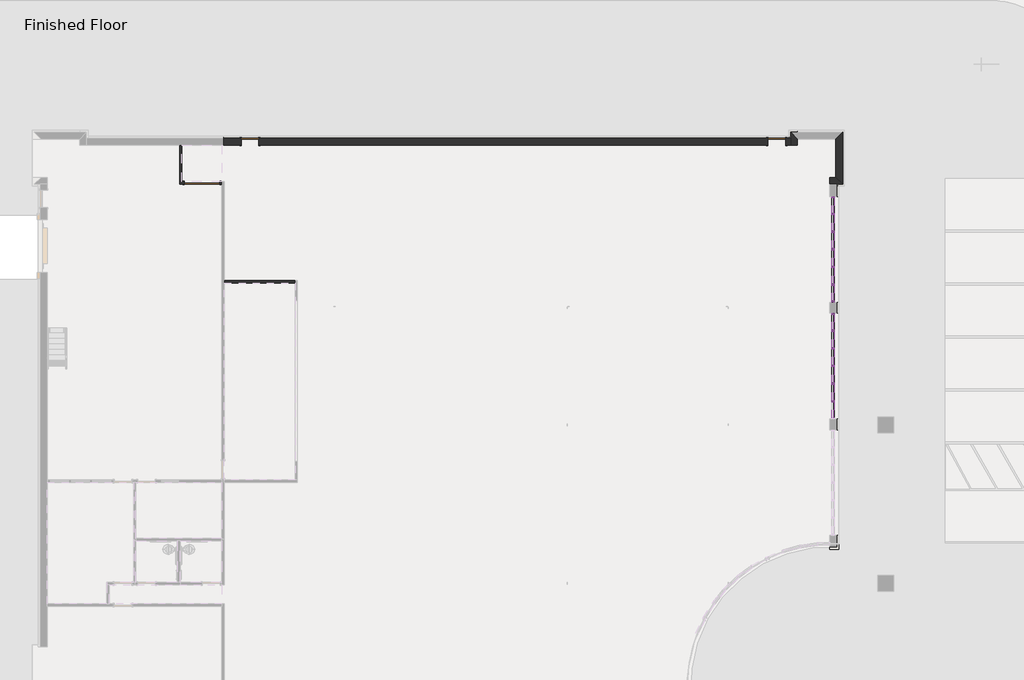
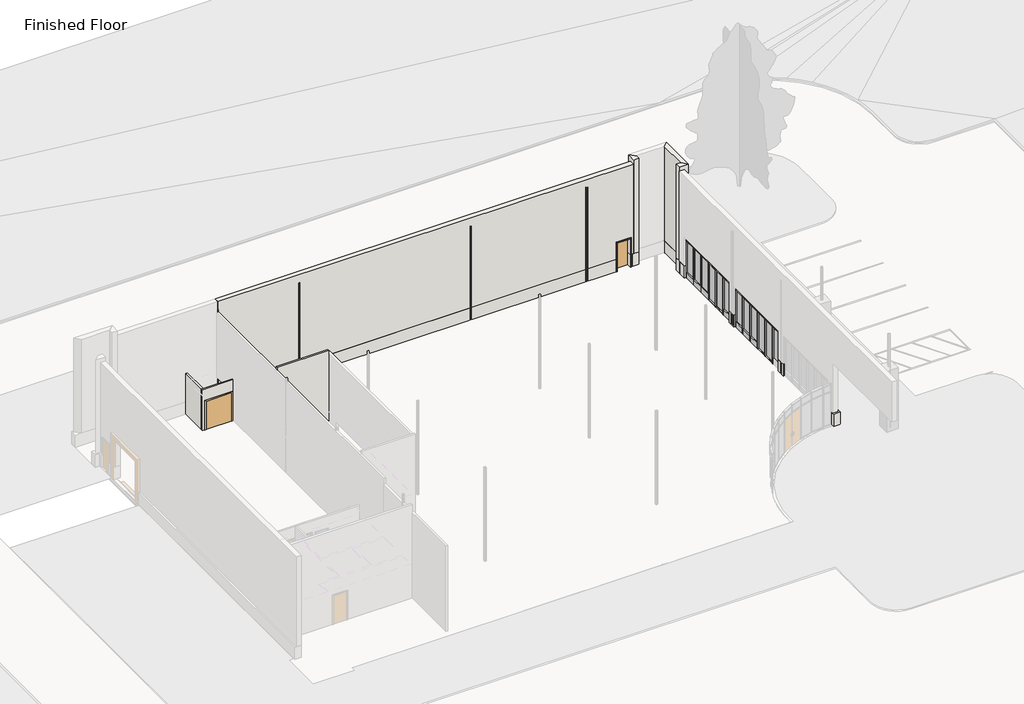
# One storey, part 5 of 7: 61 members, 24 plates, 12 walls, 3 doors.
"""IFC4 building model written with IfcOpenShell, lengths in millimetres."""

from ifc_helpers import new_model, si_unit, frame, origin, origin_with_axes, place, context, project, spatial, polyline, outline, extrude, faceted_brep, transform, mapped, element, save
from components import door_ca526e64, door_632be17d, door_cc5399a4, member_d2e7e466, member_7db1855a, member_069002c8, member_a75f139a, member_8a16213d, member_a608d019, member_c17f1be2, member_ad567e07, rectangular_mullion_tall_mullion_dc5872ae, rectangular_mullion_tall_mullion_643de06f, system_panel_glazed_a343adf7, system_panel_glazed_9a2244e3, system_panel_glazed_6d8c8de5, system_panel_glazed_f449fc8c, system_panel_glazed_de0f3d3d

model = new_model("IFC4")

# Units and contexts
model_context = context("Model", 3, world=origin())
ifc_project = project(units=[si_unit("LENGTHUNIT", "METRE", prefix="MILLI")], contexts=[model_context])

# Site, building, storey
site = spatial("IfcSite", under=ifc_project)
building = spatial("IfcBuilding", under=site)
storey = spatial("IfcBuildingStorey", under=building, Name="Finished Floor", Elevation=0.0)

# Doors
placement = place(None, origin())
door_shape = door_ca526e64(model_context)
element("IfcDoor", 1, ObjectType="Double-Flush-Dbl Acting : 72\" x 84\"", at=placement, inside=storey, context=model_context, shape_type="MappedRepresentation", body=[
    mapped(door_shape, transform((-14044.6165221, 12023.3561943, 0.0), x_axis=(-1.0, 0.0, 0.0), y_axis=(0.0, -1.0, 0.0), z_axis=(0.0, 0.0, 1.0))),
])
door_2_shape = door_632be17d(model_context)
element("IfcDoor", 2, ObjectType="Single-Flush : 36\" x 84\"", at=placement, inside=storey, context=model_context, shape_type="MappedRepresentation", body=[
    mapped(door_2_shape, transform((15731.3272279, 14169.6561943, 0.0), x_axis=(1.0, 0.0, 0.0), y_axis=(0.0, 1.0, 0.0), z_axis=(0.0, 0.0, 1.0))),
])
door_3_shape = door_cc5399a4(model_context)
element("IfcDoor", 3, ObjectType="Single-Flush : 36\" x 84\"", at=placement, inside=storey, context=model_context, shape_type="MappedRepresentation", body=[
    mapped(door_3_shape, transform((-11548.2727721, 14169.6561943, 0.0), x_axis=(-1.0, 0.0, 0.0), y_axis=(0.0, -1.0, 0.0), z_axis=(0.0, 0.0, 1.0))),
])

# Members
member_shape = member_d2e7e466(model_context)
element("IfcMember", 4, ObjectType="Rectangular Mullion : 2.5\" x 5\" rectangular", at=placement, inside=storey, context=model_context, shape_type="MappedRepresentation", body=[
    mapped(member_shape, transform((18653.9147279, 2501.5311943, 3048.0), x_axis=(0.0, 0.0, 1.0), y_axis=(1.0, 0.0, 0.0), z_axis=(0.0, 1.0, 0.0))),
])
element("IfcMember", 5, ObjectType="Rectangular Mullion : 2.5\" x 5\" rectangular", at=placement, inside=storey, context=model_context, shape_type="MappedRepresentation", body=[
    mapped(member_shape, transform((18653.9147279, 3415.9311943, 3048.0), x_axis=(0.0, 0.0, 1.0), y_axis=(1.0, 0.0, 0.0), z_axis=(0.0, 1.0, 0.0))),
])
element("IfcMember", 6, ObjectType="Rectangular Mullion : 2.5\" x 5\" rectangular", at=placement, inside=storey, context=model_context, shape_type="MappedRepresentation", body=[
    mapped(member_shape, transform((18653.9147279, 4330.3311943, 3048.0), x_axis=(0.0, 0.0, 1.0), y_axis=(1.0, 0.0, 0.0), z_axis=(0.0, 1.0, 0.0))),
])
element("IfcMember", 7, ObjectType="Rectangular Mullion : 2.5\" x 5\" rectangular", at=placement, inside=storey, context=model_context, shape_type="MappedRepresentation", body=[
    mapped(member_shape, transform((18653.9147279, 8546.7311943, 3048.0), x_axis=(0.0, 0.0, 1.0), y_axis=(1.0, 0.0, 0.0), z_axis=(0.0, 1.0, 0.0))),
])
element("IfcMember", 8, ObjectType="Rectangular Mullion : 2.5\" x 5\" rectangular", at=placement, inside=storey, context=model_context, shape_type="MappedRepresentation", body=[
    mapped(member_shape, transform((18653.9147279, 9461.1311943, 3048.0), x_axis=(0.0, 0.0, 1.0), y_axis=(1.0, 0.0, 0.0), z_axis=(0.0, 1.0, 0.0))),
])
element("IfcMember", 9, ObjectType="Rectangular Mullion : 2.5\" x 5\" rectangular", at=placement, inside=storey, context=model_context, shape_type="MappedRepresentation", body=[
    mapped(member_shape, transform((18653.9147279, 10375.5311943, 3048.0), x_axis=(0.0, 0.0, 1.0), y_axis=(1.0, 0.0, 0.0), z_axis=(0.0, 1.0, 0.0))),
])
member_2_shape = member_7db1855a(model_context)
element("IfcMember", 10, ObjectType="Rectangular Mullion : 2.5\" x 5\" rectangular", at=placement, inside=storey, context=model_context, shape_type="MappedRepresentation", body=[
    mapped(member_2_shape, transform((18653.9147279, 3415.9311943, 2813.05), x_axis=(0.0, 0.0, 1.0), y_axis=(1.0, 0.0, 0.0), z_axis=(0.0, 1.0, 0.0))),
])
element("IfcMember", 11, ObjectType="Rectangular Mullion : 2.5\" x 5\" rectangular", at=placement, inside=storey, context=model_context, shape_type="MappedRepresentation", body=[
    mapped(member_2_shape, transform((18653.9147279, 4330.3311943, 2813.05), x_axis=(0.0, 0.0, 1.0), y_axis=(1.0, 0.0, 0.0), z_axis=(0.0, 1.0, 0.0))),
])
element("IfcMember", 12, ObjectType="Rectangular Mullion : 2.5\" x 5\" rectangular", at=placement, inside=storey, context=model_context, shape_type="MappedRepresentation", body=[
    mapped(member_2_shape, transform((18653.9147279, 9461.1311943, 2813.05), x_axis=(0.0, 0.0, 1.0), y_axis=(1.0, 0.0, 0.0), z_axis=(0.0, 1.0, 0.0))),
])
element("IfcMember", 13, ObjectType="Rectangular Mullion : 2.5\" x 5\" rectangular", at=placement, inside=storey, context=model_context, shape_type="MappedRepresentation", body=[
    mapped(member_2_shape, transform((18653.9147279, 10375.5311943, 2813.05), x_axis=(0.0, 0.0, 1.0), y_axis=(1.0, 0.0, 0.0), z_axis=(0.0, 1.0, 0.0))),
])
element("IfcMember", 14, ObjectType="Rectangular Mullion : 2.5\" x 5\" rectangular", at=placement, inside=storey, context=model_context, shape_type="MappedRepresentation", body=[
    mapped(member_shape, transform((18653.9147279, 1587.1311943, 3048.0), x_axis=(0.0, 0.0, 1.0), y_axis=(1.0, 0.0, 0.0), z_axis=(0.0, 1.0, 0.0))),
])
element("IfcMember", 15, ObjectType="Rectangular Mullion : 2.5\" x 5\" rectangular", at=placement, inside=storey, context=model_context, shape_type="MappedRepresentation", body=[
    mapped(member_shape, transform((18653.9147279, 7632.3311943, 3048.0), x_axis=(0.0, 0.0, 1.0), y_axis=(1.0, 0.0, 0.0), z_axis=(0.0, 1.0, 0.0))),
])
element("IfcMember", 16, ObjectType="Rectangular Mullion : 2.5\" x 5\" rectangular", at=placement, inside=storey, context=model_context, shape_type="MappedRepresentation", body=[
    mapped(member_shape, transform((18653.9147279, 736.2311943, 0.0), x_axis=(0.0, 0.0, -1.0), y_axis=(1.0, 0.0, 0.0), z_axis=(0.0, -1.0, 0.0))),
])
element("IfcMember", 17, ObjectType="Rectangular Mullion : 2.5\" x 5\" rectangular", at=placement, inside=storey, context=model_context, shape_type="MappedRepresentation", body=[
    mapped(member_shape, transform((18653.9147279, 1650.6311943, 0.0), x_axis=(0.0, 0.0, -1.0), y_axis=(1.0, 0.0, 0.0), z_axis=(0.0, -1.0, 0.0))),
])
element("IfcMember", 18, ObjectType="Rectangular Mullion : 2.5\" x 5\" rectangular", at=placement, inside=storey, context=model_context, shape_type="MappedRepresentation", body=[
    mapped(member_shape, transform((18653.9147279, 6781.4311943, 0.0), x_axis=(0.0, 0.0, -1.0), y_axis=(1.0, 0.0, 0.0), z_axis=(0.0, -1.0, 0.0))),
])
element("IfcMember", 19, ObjectType="Rectangular Mullion : 2.5\" x 5\" rectangular", at=placement, inside=storey, context=model_context, shape_type="MappedRepresentation", body=[
    mapped(member_shape, transform((18653.9147279, 7695.8311943, 0.0), x_axis=(0.0, 0.0, -1.0), y_axis=(1.0, 0.0, 0.0), z_axis=(0.0, -1.0, 0.0))),
])
element("IfcMember", 20, ObjectType="Rectangular Mullion : 2.5\" x 5\" rectangular", at=placement, inside=storey, context=model_context, shape_type="MappedRepresentation", body=[
    mapped(member_2_shape, transform((18653.9147279, 1587.1311943, 2813.05), x_axis=(0.0, 0.0, 1.0), y_axis=(1.0, 0.0, 0.0), z_axis=(0.0, 1.0, 0.0))),
])
element("IfcMember", 21, ObjectType="Rectangular Mullion : 2.5\" x 5\" rectangular", at=placement, inside=storey, context=model_context, shape_type="MappedRepresentation", body=[
    mapped(member_2_shape, transform((18653.9147279, 2501.5311943, 2813.05), x_axis=(0.0, 0.0, 1.0), y_axis=(1.0, 0.0, 0.0), z_axis=(0.0, 1.0, 0.0))),
])
element("IfcMember", 22, ObjectType="Rectangular Mullion : 2.5\" x 5\" rectangular", at=placement, inside=storey, context=model_context, shape_type="MappedRepresentation", body=[
    mapped(member_2_shape, transform((18653.9147279, 7632.3311943, 2813.05), x_axis=(0.0, 0.0, 1.0), y_axis=(1.0, 0.0, 0.0), z_axis=(0.0, 1.0, 0.0))),
])
element("IfcMember", 23, ObjectType="Rectangular Mullion : 2.5\" x 5\" rectangular", at=placement, inside=storey, context=model_context, shape_type="MappedRepresentation", body=[
    mapped(member_2_shape, transform((18653.9147279, 8546.7311943, 2813.05), x_axis=(0.0, 0.0, 1.0), y_axis=(1.0, 0.0, 0.0), z_axis=(0.0, 1.0, 0.0))),
])
member_3_shape = member_069002c8(model_context)
element("IfcMember", 24, ObjectType="Rectangular Mullion : 2.5\" x 5\" rectangular", at=placement, inside=storey, context=model_context, shape_type="MappedRepresentation", body=[
    mapped(member_3_shape, transform((18653.9147279, 2533.2811943, 0.0), x_axis=(0.0, 1.0, 0.0), y_axis=(1.0, 0.0, 0.0), z_axis=(0.0, 0.0, -1.0))),
])
element("IfcMember", 25, ObjectType="Rectangular Mullion : 2.5\" x 5\" rectangular", at=placement, inside=storey, context=model_context, shape_type="MappedRepresentation", body=[
    mapped(member_3_shape, transform((18653.9147279, 3447.6811943, 0.0), x_axis=(0.0, 1.0, 0.0), y_axis=(1.0, 0.0, 0.0), z_axis=(0.0, 0.0, -1.0))),
])
element("IfcMember", 26, ObjectType="Rectangular Mullion : 2.5\" x 5\" rectangular", at=placement, inside=storey, context=model_context, shape_type="MappedRepresentation", body=[
    mapped(member_3_shape, transform((18653.9147279, 4362.0811943, 0.0), x_axis=(0.0, 1.0, 0.0), y_axis=(1.0, 0.0, 0.0), z_axis=(0.0, 0.0, -1.0))),
])
element("IfcMember", 27, ObjectType="Rectangular Mullion : 2.5\" x 5\" rectangular", at=placement, inside=storey, context=model_context, shape_type="MappedRepresentation", body=[
    mapped(member_3_shape, transform((18653.9147279, 8578.4811943, 0.0), x_axis=(0.0, 1.0, 0.0), y_axis=(1.0, 0.0, 0.0), z_axis=(0.0, 0.0, -1.0))),
])
element("IfcMember", 28, ObjectType="Rectangular Mullion : 2.5\" x 5\" rectangular", at=placement, inside=storey, context=model_context, shape_type="MappedRepresentation", body=[
    mapped(member_3_shape, transform((18653.9147279, 9492.8811943, 0.0), x_axis=(0.0, 1.0, 0.0), y_axis=(1.0, 0.0, 0.0), z_axis=(0.0, 0.0, -1.0))),
])
element("IfcMember", 29, ObjectType="Rectangular Mullion : 2.5\" x 5\" rectangular", at=placement, inside=storey, context=model_context, shape_type="MappedRepresentation", body=[
    mapped(member_3_shape, transform((18653.9147279, 10407.2811943, 0.0), x_axis=(0.0, 1.0, 0.0), y_axis=(1.0, 0.0, 0.0), z_axis=(0.0, 0.0, -1.0))),
])
member_4_shape = member_a75f139a(model_context)
element("IfcMember", 30, ObjectType="Rectangular Mullion : 2.5\" x 5\" rectangular", at=placement, inside=storey, context=model_context, shape_type="MappedRepresentation", body=[
    mapped(member_4_shape, transform((18653.9147279, 2533.2811943, 2813.05), x_axis=(0.0, 1.0, 0.0), y_axis=(1.0, 0.0, 0.0), z_axis=(0.0, 0.0, -1.0))),
])
element("IfcMember", 31, ObjectType="Rectangular Mullion : 2.5\" x 5\" rectangular", at=placement, inside=storey, context=model_context, shape_type="MappedRepresentation", body=[
    mapped(member_4_shape, transform((18653.9147279, 3447.6811943, 2813.05), x_axis=(0.0, 1.0, 0.0), y_axis=(1.0, 0.0, 0.0), z_axis=(0.0, 0.0, -1.0))),
])
element("IfcMember", 32, ObjectType="Rectangular Mullion : 2.5\" x 5\" rectangular", at=placement, inside=storey, context=model_context, shape_type="MappedRepresentation", body=[
    mapped(member_4_shape, transform((18653.9147279, 4362.0811943, 2813.05), x_axis=(0.0, 1.0, 0.0), y_axis=(1.0, 0.0, 0.0), z_axis=(0.0, 0.0, -1.0))),
])
element("IfcMember", 33, ObjectType="Rectangular Mullion : 2.5\" x 5\" rectangular", at=placement, inside=storey, context=model_context, shape_type="MappedRepresentation", body=[
    mapped(member_4_shape, transform((18653.9147279, 8578.4811943, 2813.05), x_axis=(0.0, 1.0, 0.0), y_axis=(1.0, 0.0, 0.0), z_axis=(0.0, 0.0, -1.0))),
])
element("IfcMember", 34, ObjectType="Rectangular Mullion : 2.5\" x 5\" rectangular", at=placement, inside=storey, context=model_context, shape_type="MappedRepresentation", body=[
    mapped(member_4_shape, transform((18653.9147279, 9492.8811943, 2813.05), x_axis=(0.0, 1.0, 0.0), y_axis=(1.0, 0.0, 0.0), z_axis=(0.0, 0.0, -1.0))),
])
element("IfcMember", 35, ObjectType="Rectangular Mullion : 2.5\" x 5\" rectangular", at=placement, inside=storey, context=model_context, shape_type="MappedRepresentation", body=[
    mapped(member_4_shape, transform((18653.9147279, 10407.2811943, 2813.05), x_axis=(0.0, 1.0, 0.0), y_axis=(1.0, 0.0, 0.0), z_axis=(0.0, 0.0, -1.0))),
])
element("IfcMember", 36, ObjectType="Rectangular Mullion : 2.5\" x 5\" rectangular", at=placement, inside=storey, context=model_context, shape_type="MappedRepresentation", body=[
    mapped(member_3_shape, transform((18653.9147279, 1618.8811943, 0.0), x_axis=(0.0, 1.0, 0.0), y_axis=(1.0, 0.0, 0.0), z_axis=(0.0, 0.0, -1.0))),
])
element("IfcMember", 37, ObjectType="Rectangular Mullion : 2.5\" x 5\" rectangular", at=placement, inside=storey, context=model_context, shape_type="MappedRepresentation", body=[
    mapped(member_3_shape, transform((18653.9147279, 704.4811943, 0.0), x_axis=(0.0, 1.0, 0.0), y_axis=(1.0, 0.0, 0.0), z_axis=(0.0, 0.0, -1.0))),
])
element("IfcMember", 38, ObjectType="Rectangular Mullion : 2.5\" x 5\" rectangular", at=placement, inside=storey, context=model_context, shape_type="MappedRepresentation", body=[
    mapped(member_3_shape, transform((18653.9147279, 7664.0811943, 0.0), x_axis=(0.0, 1.0, 0.0), y_axis=(1.0, 0.0, 0.0), z_axis=(0.0, 0.0, -1.0))),
])
element("IfcMember", 39, ObjectType="Rectangular Mullion : 2.5\" x 5\" rectangular", at=placement, inside=storey, context=model_context, shape_type="MappedRepresentation", body=[
    mapped(member_3_shape, transform((18653.9147279, 6749.6811943, 0.0), x_axis=(0.0, 1.0, 0.0), y_axis=(1.0, 0.0, 0.0), z_axis=(0.0, 0.0, -1.0))),
])
element("IfcMember", 40, ObjectType="Rectangular Mullion : 2.5\" x 5\" rectangular", at=placement, inside=storey, context=model_context, shape_type="MappedRepresentation", body=[
    mapped(member_4_shape, transform((18653.9147279, 1618.8811943, 2813.05), x_axis=(0.0, 1.0, 0.0), y_axis=(1.0, 0.0, 0.0), z_axis=(0.0, 0.0, -1.0))),
])
element("IfcMember", 41, ObjectType="Rectangular Mullion : 2.5\" x 5\" rectangular", at=placement, inside=storey, context=model_context, shape_type="MappedRepresentation", body=[
    mapped(member_4_shape, transform((18653.9147279, 704.4811943, 2813.05), x_axis=(0.0, 1.0, 0.0), y_axis=(1.0, 0.0, 0.0), z_axis=(0.0, 0.0, -1.0))),
])
element("IfcMember", 42, ObjectType="Rectangular Mullion : 2.5\" x 5\" rectangular", at=placement, inside=storey, context=model_context, shape_type="MappedRepresentation", body=[
    mapped(member_4_shape, transform((18653.9147279, 7664.0811943, 2813.05), x_axis=(0.0, 1.0, 0.0), y_axis=(1.0, 0.0, 0.0), z_axis=(0.0, 0.0, -1.0))),
])
element("IfcMember", 43, ObjectType="Rectangular Mullion : 2.5\" x 5\" rectangular", at=placement, inside=storey, context=model_context, shape_type="MappedRepresentation", body=[
    mapped(member_4_shape, transform((18653.9147279, 6749.6811943, 2813.05), x_axis=(0.0, 1.0, 0.0), y_axis=(1.0, 0.0, 0.0), z_axis=(0.0, 0.0, -1.0))),
])
member_5_shape = member_8a16213d(model_context)
element("IfcMember", 44, ObjectType="Rectangular Mullion : 2.5\" x 5\" rectangular", at=placement, inside=storey, context=model_context, shape_type="MappedRepresentation", body=[
    mapped(member_5_shape, transform((18653.9147279, 5276.4811943, 0.0), x_axis=(0.0, 1.0, 0.0), y_axis=(1.0, 0.0, 0.0), z_axis=(0.0, 0.0, -1.0))),
])
element("IfcMember", 45, ObjectType="Rectangular Mullion : 2.5\" x 5\" rectangular", at=placement, inside=storey, context=model_context, shape_type="MappedRepresentation", body=[
    mapped(member_5_shape, transform((18653.9147279, 11321.6811943, 0.0), x_axis=(0.0, 1.0, 0.0), y_axis=(1.0, 0.0, 0.0), z_axis=(0.0, 0.0, -1.0))),
])
member_6_shape = member_a608d019(model_context)
element("IfcMember", 46, ObjectType="Rectangular Mullion : 2.5\" x 5\" rectangular", at=placement, inside=storey, context=model_context, shape_type="MappedRepresentation", body=[
    mapped(member_6_shape, transform((18653.9147279, 5276.4811943, 2813.05), x_axis=(0.0, 1.0, 0.0), y_axis=(1.0, 0.0, 0.0), z_axis=(0.0, 0.0, -1.0))),
])
element("IfcMember", 47, ObjectType="Rectangular Mullion : 2.5\" x 5\" rectangular", at=placement, inside=storey, context=model_context, shape_type="MappedRepresentation", body=[
    mapped(member_6_shape, transform((18653.9147279, 11321.6811943, 2813.05), x_axis=(0.0, 1.0, 0.0), y_axis=(1.0, 0.0, 0.0), z_axis=(0.0, 0.0, -1.0))),
])
element("IfcMember", 48, ObjectType="Rectangular Mullion : 2.5\" x 5\" rectangular", at=placement, inside=storey, context=model_context, shape_type="MappedRepresentation", body=[
    mapped(member_6_shape, transform((18653.9147279, 5835.2811943, 3048.0), x_axis=(0.0, -1.0, 0.0), y_axis=(1.0, 0.0, 0.0), z_axis=(0.0, 0.0, 1.0))),
])
element("IfcMember", 49, ObjectType="Rectangular Mullion : 2.5\" x 5\" rectangular", at=placement, inside=storey, context=model_context, shape_type="MappedRepresentation", body=[
    mapped(member_5_shape, transform((18653.9147279, 5835.2811943, 2813.05), x_axis=(0.0, -1.0, 0.0), y_axis=(1.0, 0.0, 0.0), z_axis=(0.0, 0.0, 1.0))),
])
member_7_shape = member_c17f1be2(model_context)
element("IfcMember", 50, ObjectType="Rectangular Mullion : 2.5\" x 5\" rectangular", at=placement, inside=storey, context=model_context, shape_type="MappedRepresentation", body=[
    mapped(member_7_shape, transform((18653.9147279, 5212.9811943, 3048.0), x_axis=(0.0, 0.0, 1.0), y_axis=(1.0, 0.0, 0.0), z_axis=(0.0, 1.0, 0.0))),
])
element("IfcMember", 51, ObjectType="Rectangular Mullion : 2.5\" x 5\" rectangular", at=placement, inside=storey, context=model_context, shape_type="MappedRepresentation", body=[
    mapped(member_7_shape, transform((18653.9147279, 11258.1811943, 3048.0), x_axis=(0.0, 0.0, 1.0), y_axis=(1.0, 0.0, 0.0), z_axis=(0.0, 1.0, 0.0))),
])
member_8_shape = member_ad567e07(model_context)
element("IfcMember", 52, ObjectType="Rectangular Mullion : 2.5\" x 5\" rectangular", at=placement, inside=storey, context=model_context, shape_type="MappedRepresentation", body=[
    mapped(member_8_shape, transform((18653.9147279, 672.7311943, 2813.05), x_axis=(0.0, 0.0, 1.0), y_axis=(1.0, 0.0, 0.0), z_axis=(0.0, 1.0, 0.0))),
])
element("IfcMember", 53, ObjectType="Rectangular Mullion : 2.5\" x 5\" rectangular", at=placement, inside=storey, context=model_context, shape_type="MappedRepresentation", body=[
    mapped(member_8_shape, transform((18653.9147279, 5212.9811943, 2813.05), x_axis=(0.0, 0.0, 1.0), y_axis=(1.0, 0.0, 0.0), z_axis=(0.0, 1.0, 0.0))),
])
element("IfcMember", 54, ObjectType="Rectangular Mullion : 2.5\" x 5\" rectangular", at=placement, inside=storey, context=model_context, shape_type="MappedRepresentation", body=[
    mapped(member_8_shape, transform((18653.9147279, 6717.9311943, 2813.05), x_axis=(0.0, 0.0, 1.0), y_axis=(1.0, 0.0, 0.0), z_axis=(0.0, 1.0, 0.0))),
])
element("IfcMember", 55, ObjectType="Rectangular Mullion : 2.5\" x 5\" rectangular", at=placement, inside=storey, context=model_context, shape_type="MappedRepresentation", body=[
    mapped(member_8_shape, transform((18653.9147279, 11258.1811943, 2813.05), x_axis=(0.0, 0.0, 1.0), y_axis=(1.0, 0.0, 0.0), z_axis=(0.0, 1.0, 0.0))),
])
element("IfcMember", 56, ObjectType="Rectangular Mullion : 2.5\" x 5\" rectangular", at=placement, inside=storey, context=model_context, shape_type="MappedRepresentation", body=[
    mapped(member_7_shape, transform((18653.9147279, 672.7311943, 3048.0), x_axis=(0.0, 0.0, 1.0), y_axis=(1.0, 0.0, 0.0), z_axis=(0.0, 1.0, 0.0))),
])
element("IfcMember", 57, ObjectType="Rectangular Mullion : 2.5\" x 5\" rectangular", at=placement, inside=storey, context=model_context, shape_type="MappedRepresentation", body=[
    mapped(member_7_shape, transform((18653.9147279, 6717.9311943, 3048.0), x_axis=(0.0, 0.0, 1.0), y_axis=(1.0, 0.0, 0.0), z_axis=(0.0, 1.0, 0.0))),
])
rectangular_mullion_tall_mullion_shape = rectangular_mullion_tall_mullion_dc5872ae(model_context)
element("IfcMember", 58, ObjectType="Rectangular Mullion : Tall Mullion", at=placement, inside=storey, context=model_context, shape_type="MappedRepresentation", body=[
    mapped(rectangular_mullion_tall_mullion_shape, transform((18653.9147279, 2565.0311943, 0.0), x_axis=(0.0, 0.0, -1.0), y_axis=(1.0, 0.0, 0.0), z_axis=(0.0, -1.0, 0.0))),
])
element("IfcMember", 59, ObjectType="Rectangular Mullion : Tall Mullion", at=placement, inside=storey, context=model_context, shape_type="MappedRepresentation", body=[
    mapped(rectangular_mullion_tall_mullion_shape, transform((18653.9147279, 3479.4311943, 0.0), x_axis=(0.0, 0.0, -1.0), y_axis=(1.0, 0.0, 0.0), z_axis=(0.0, -1.0, 0.0))),
])
element("IfcMember", 60, ObjectType="Rectangular Mullion : Tall Mullion", at=placement, inside=storey, context=model_context, shape_type="MappedRepresentation", body=[
    mapped(rectangular_mullion_tall_mullion_shape, transform((18653.9147279, 8610.2311943, 0.0), x_axis=(0.0, 0.0, -1.0), y_axis=(1.0, 0.0, 0.0), z_axis=(0.0, -1.0, 0.0))),
])
element("IfcMember", 61, ObjectType="Rectangular Mullion : Tall Mullion", at=placement, inside=storey, context=model_context, shape_type="MappedRepresentation", body=[
    mapped(rectangular_mullion_tall_mullion_shape, transform((18653.9147279, 9524.6311943, 0.0), x_axis=(0.0, 0.0, -1.0), y_axis=(1.0, 0.0, 0.0), z_axis=(0.0, -1.0, 0.0))),
])
rectangular_mullion_tall_mullion_2_shape = rectangular_mullion_tall_mullion_643de06f(model_context)
element("IfcMember", 62, ObjectType="Rectangular Mullion : Tall Mullion", at=placement, inside=storey, context=model_context, shape_type="MappedRepresentation", body=[
    mapped(rectangular_mullion_tall_mullion_2_shape, transform((18653.9147279, 4393.8311943, 0.0), x_axis=(0.0, 0.0, -1.0), y_axis=(1.0, 0.0, 0.0), z_axis=(0.0, -1.0, 0.0))),
])
element("IfcMember", 63, ObjectType="Rectangular Mullion : Tall Mullion", at=placement, inside=storey, context=model_context, shape_type="MappedRepresentation", body=[
    mapped(rectangular_mullion_tall_mullion_2_shape, transform((18653.9147279, 5898.7811943, 0.0), x_axis=(0.0, 0.0, -1.0), y_axis=(1.0, 0.0, 0.0), z_axis=(0.0, -1.0, 0.0))),
])
element("IfcMember", 64, ObjectType="Rectangular Mullion : Tall Mullion", at=placement, inside=storey, context=model_context, shape_type="MappedRepresentation", body=[
    mapped(rectangular_mullion_tall_mullion_2_shape, transform((18653.9147279, 10439.0311943, 0.0), x_axis=(0.0, 0.0, -1.0), y_axis=(1.0, 0.0, 0.0), z_axis=(0.0, -1.0, 0.0))),
])

# Plates
system_panel_glazed_shape = system_panel_glazed_a343adf7(model_context)
element("IfcPlate", 65, ObjectType="System Panel : Glazed", at=placement, inside=storey, context=model_context, shape_type="MappedRepresentation", body=[
    mapped(system_panel_glazed_shape, transform((18653.9147279, 2990.4811943, 406.4), x_axis=(0.0, 1.0, 0.0), y_axis=(-1.0, 0.0, 0.0), z_axis=(0.0, 0.0, 1.0))),
])
element("IfcPlate", 66, ObjectType="System Panel : Glazed", at=placement, inside=storey, context=model_context, shape_type="MappedRepresentation", body=[
    mapped(system_panel_glazed_shape, transform((18653.9147279, 3904.8811943, 406.4), x_axis=(0.0, 1.0, 0.0), y_axis=(-1.0, 0.0, 0.0), z_axis=(0.0, 0.0, 1.0))),
])
element("IfcPlate", 67, ObjectType="System Panel : Glazed", at=placement, inside=storey, context=model_context, shape_type="MappedRepresentation", body=[
    mapped(system_panel_glazed_shape, transform((18653.9147279, 9035.6811943, 406.4), x_axis=(0.0, 1.0, 0.0), y_axis=(-1.0, 0.0, 0.0), z_axis=(0.0, 0.0, 1.0))),
])
element("IfcPlate", 68, ObjectType="System Panel : Glazed", at=placement, inside=storey, context=model_context, shape_type="MappedRepresentation", body=[
    mapped(system_panel_glazed_shape, transform((18653.9147279, 9950.0811943, 406.4), x_axis=(0.0, 1.0, 0.0), y_axis=(-1.0, 0.0, 0.0), z_axis=(0.0, 0.0, 1.0))),
])
system_panel_glazed_2_shape = system_panel_glazed_9a2244e3(model_context)
element("IfcPlate", 69, ObjectType="System Panel : Glazed", at=placement, inside=storey, context=model_context, shape_type="MappedRepresentation", body=[
    mapped(system_panel_glazed_2_shape, transform((18653.9147279, 2990.4811943, 2844.8), x_axis=(0.0, 1.0, 0.0), y_axis=(-1.0, 0.0, 0.0), z_axis=(0.0, 0.0, 1.0))),
])
element("IfcPlate", 70, ObjectType="System Panel : Glazed", at=placement, inside=storey, context=model_context, shape_type="MappedRepresentation", body=[
    mapped(system_panel_glazed_2_shape, transform((18653.9147279, 3904.8811943, 2844.8), x_axis=(0.0, 1.0, 0.0), y_axis=(-1.0, 0.0, 0.0), z_axis=(0.0, 0.0, 1.0))),
])
element("IfcPlate", 71, ObjectType="System Panel : Glazed", at=placement, inside=storey, context=model_context, shape_type="MappedRepresentation", body=[
    mapped(system_panel_glazed_2_shape, transform((18653.9147279, 9035.6811943, 2844.8), x_axis=(0.0, 1.0, 0.0), y_axis=(-1.0, 0.0, 0.0), z_axis=(0.0, 0.0, 1.0))),
])
element("IfcPlate", 72, ObjectType="System Panel : Glazed", at=placement, inside=storey, context=model_context, shape_type="MappedRepresentation", body=[
    mapped(system_panel_glazed_2_shape, transform((18653.9147279, 9950.0811943, 2844.8), x_axis=(0.0, 1.0, 0.0), y_axis=(-1.0, 0.0, 0.0), z_axis=(0.0, 0.0, 1.0))),
])
element("IfcPlate", 73, ObjectType="System Panel : Glazed", at=placement, inside=storey, context=model_context, shape_type="MappedRepresentation", body=[
    mapped(system_panel_glazed_2_shape, transform((18653.9147279, 2076.0811943, 2844.8), x_axis=(0.0, 1.0, 0.0), y_axis=(-1.0, 0.0, 0.0), z_axis=(0.0, 0.0, 1.0))),
])
element("IfcPlate", 74, ObjectType="System Panel : Glazed", at=placement, inside=storey, context=model_context, shape_type="MappedRepresentation", body=[
    mapped(system_panel_glazed_2_shape, transform((18653.9147279, 1161.6811943, 2844.8), x_axis=(0.0, 1.0, 0.0), y_axis=(-1.0, 0.0, 0.0), z_axis=(0.0, 0.0, 1.0))),
])
element("IfcPlate", 75, ObjectType="System Panel : Glazed", at=placement, inside=storey, context=model_context, shape_type="MappedRepresentation", body=[
    mapped(system_panel_glazed_2_shape, transform((18653.9147279, 8121.2811943, 2844.8), x_axis=(0.0, 1.0, 0.0), y_axis=(-1.0, 0.0, 0.0), z_axis=(0.0, 0.0, 1.0))),
])
element("IfcPlate", 76, ObjectType="System Panel : Glazed", at=placement, inside=storey, context=model_context, shape_type="MappedRepresentation", body=[
    mapped(system_panel_glazed_2_shape, transform((18653.9147279, 7206.8811943, 2844.8), x_axis=(0.0, 1.0, 0.0), y_axis=(-1.0, 0.0, 0.0), z_axis=(0.0, 0.0, 1.0))),
])
system_panel_glazed_3_shape = system_panel_glazed_6d8c8de5(model_context)
element("IfcPlate", 77, ObjectType="System Panel : Glazed", at=placement, inside=storey, context=model_context, shape_type="MappedRepresentation", body=[
    mapped(system_panel_glazed_3_shape, transform((18653.9147279, 2076.0811943, 63.5), x_axis=(0.0, 1.0, 0.0), y_axis=(-1.0, 0.0, 0.0), z_axis=(0.0, 0.0, 1.0))),
])
element("IfcPlate", 78, ObjectType="System Panel : Glazed", at=placement, inside=storey, context=model_context, shape_type="MappedRepresentation", body=[
    mapped(system_panel_glazed_3_shape, transform((18653.9147279, 1161.6811943, 63.5), x_axis=(0.0, 1.0, 0.0), y_axis=(-1.0, 0.0, 0.0), z_axis=(0.0, 0.0, 1.0))),
])
element("IfcPlate", 79, ObjectType="System Panel : Glazed", at=placement, inside=storey, context=model_context, shape_type="MappedRepresentation", body=[
    mapped(system_panel_glazed_3_shape, transform((18653.9147279, 8121.2811943, 63.5), x_axis=(0.0, 1.0, 0.0), y_axis=(-1.0, 0.0, 0.0), z_axis=(0.0, 0.0, 1.0))),
])
element("IfcPlate", 80, ObjectType="System Panel : Glazed", at=placement, inside=storey, context=model_context, shape_type="MappedRepresentation", body=[
    mapped(system_panel_glazed_3_shape, transform((18653.9147279, 7206.8811943, 63.5), x_axis=(0.0, 1.0, 0.0), y_axis=(-1.0, 0.0, 0.0), z_axis=(0.0, 0.0, 1.0))),
])
system_panel_glazed_4_shape = system_panel_glazed_f449fc8c(model_context)
element("IfcPlate", 81, ObjectType="System Panel : Glazed", at=placement, inside=storey, context=model_context, shape_type="MappedRepresentation", body=[
    mapped(system_panel_glazed_4_shape, transform((18653.9147279, 263.1561943, 406.4), x_axis=(0.0, 1.0, 0.0), y_axis=(-1.0, 0.0, 0.0), z_axis=(0.0, 0.0, 1.0))),
])
element("IfcPlate", 82, ObjectType="System Panel : Glazed", at=placement, inside=storey, context=model_context, shape_type="MappedRepresentation", body=[
    mapped(system_panel_glazed_4_shape, transform((18653.9147279, 4803.4061943, 406.4), x_axis=(0.0, 1.0, 0.0), y_axis=(-1.0, 0.0, 0.0), z_axis=(0.0, 0.0, 1.0))),
])
element("IfcPlate", 83, ObjectType="System Panel : Glazed", at=placement, inside=storey, context=model_context, shape_type="MappedRepresentation", body=[
    mapped(system_panel_glazed_4_shape, transform((18653.9147279, 6308.3561943, 406.4), x_axis=(0.0, 1.0, 0.0), y_axis=(-1.0, 0.0, 0.0), z_axis=(0.0, 0.0, 1.0))),
])
element("IfcPlate", 84, ObjectType="System Panel : Glazed", at=placement, inside=storey, context=model_context, shape_type="MappedRepresentation", body=[
    mapped(system_panel_glazed_4_shape, transform((18653.9147279, 10848.6061943, 406.4), x_axis=(0.0, 1.0, 0.0), y_axis=(-1.0, 0.0, 0.0), z_axis=(0.0, 0.0, 1.0))),
])
system_panel_glazed_5_shape = system_panel_glazed_de0f3d3d(model_context)
element("IfcPlate", 85, ObjectType="System Panel : Glazed", at=placement, inside=storey, context=model_context, shape_type="MappedRepresentation", body=[
    mapped(system_panel_glazed_5_shape, transform((18653.9147279, 263.1561943, 2844.8), x_axis=(0.0, 1.0, 0.0), y_axis=(-1.0, 0.0, 0.0), z_axis=(0.0, 0.0, 1.0))),
])
element("IfcPlate", 86, ObjectType="System Panel : Glazed", at=placement, inside=storey, context=model_context, shape_type="MappedRepresentation", body=[
    mapped(system_panel_glazed_5_shape, transform((18653.9147279, 4803.4061943, 2844.8), x_axis=(0.0, 1.0, 0.0), y_axis=(-1.0, 0.0, 0.0), z_axis=(0.0, 0.0, 1.0))),
])
element("IfcPlate", 87, ObjectType="System Panel : Glazed", at=placement, inside=storey, context=model_context, shape_type="MappedRepresentation", body=[
    mapped(system_panel_glazed_5_shape, transform((18653.9147279, 6308.3561943, 2844.8), x_axis=(0.0, 1.0, 0.0), y_axis=(-1.0, 0.0, 0.0), z_axis=(0.0, 0.0, 1.0))),
])
element("IfcPlate", 88, ObjectType="System Panel : Glazed", at=placement, inside=storey, context=model_context, shape_type="MappedRepresentation", body=[
    mapped(system_panel_glazed_5_shape, transform((18653.9147279, 10848.6061943, 2844.8), x_axis=(0.0, 1.0, 0.0), y_axis=(-1.0, 0.0, 0.0), z_axis=(0.0, 0.0, 1.0))),
])

# Walls
element("IfcWall", 89, ObjectType="Exterior - Brick on Mtl. Stud", at=placement, inside=storey, context=model_context, shape_type="Brep", body=[
    faceted_brep([(16442.5272279, 13993.4436943, 7620.0), (-12953.2102721, 13993.4436943, 7620.0), (-12953.2102721, 13993.4436943, 914.4), (-12005.4727721, 13993.4436943, 914.4), (-12005.4727721, 13993.4436943, 2133.6), (-11091.0727721, 13993.4436943, 2133.6), (-11091.0727721, 13993.4436943, 914.4), (15274.1272279, 13993.4436943, 914.4), (15274.1272279, 13993.4436943, 2133.6), (16188.5272279, 13993.4436943, 2133.6), (16188.5272279, 13993.4436943, 914.4), (16340.9272279, 13993.4436943, 914.4), (16442.5272279, 13993.4436943, 914.4), (-12953.2102721, 14345.8686943, 7620.0), (16442.5272279, 14345.8686943, 7620.0), (16442.5272279, 14345.8686943, 914.4), (16188.5272279, 14345.8686943, 914.4), (16188.5272279, 14345.8686943, 2133.6), (15274.1272279, 14345.8686943, 2133.6), (15274.1272279, 14345.8686943, 914.4), (-11091.0727721, 14345.8686943, 914.4), (-11091.0727721, 14345.8686943, 2133.6), (-12005.4727721, 14345.8686943, 2133.6), (-12005.4727721, 14345.8686943, 914.4), (-12953.2102721, 14345.8686943, 914.4), (-12953.2102721, 14336.3436943, 914.4)], [[[0, 1, 2, 3, 4, 5, 6, 7, 8, 9, 10, 11, 12]], [[13, 14, 15, 16, 17, 18, 19, 20, 21, 22, 23, 24]], [[15, 12, 11, 10, 16]], [[6, 20, 19, 7]], [[2, 25, 24, 23, 3]], [[1, 0, 14, 13]], [[0, 12, 15, 14]], [[22, 4, 3, 23]], [[4, 22, 21, 5]], [[5, 21, 20, 6]], [[1, 13, 24, 25, 2]], [[9, 17, 16, 10]], [[17, 9, 8, 18]], [[18, 8, 7, 19]]]),
])
element("IfcWall", 90, ObjectType="Exterior - Brick on Mtl. Stud", at=placement, inside=storey, context=model_context, shape_type="Brep", body=[
    faceted_brep([(16794.9522279, 13993.4436943, 914.4), (16794.9522279, 14298.2436943, 914.4), (16794.9522279, 14298.2436943, 7924.8), (16794.9522279, 13993.4436943, 7924.8), (16442.5272279, 13993.4436943, 914.4), (16442.5272279, 13993.4436943, 7620.0), (16442.5272279, 13993.4436943, 7924.8), (16442.5272279, 14650.6686943, 7924.8), (16442.5272279, 14650.6686943, 914.4), (16442.5272279, 14345.8686943, 914.4)], [[[0, 1, 2, 3]], [[4, 5, 6, 7, 8, 9]], [[1, 0, 4, 9, 8]], [[3, 2, 7, 6]], [[2, 1, 8, 7]], [[0, 3, 6, 5, 4]]]),
])
element("IfcWall", 91, ObjectType="Exterior - Brick on Mtl. Stud", at=placement, inside=storey, context=model_context, shape_type="SweptSolid", body=[
    extrude(outline(polyline([(18782.5022279, 12310.6936943), (18782.5022279, 14298.2436943), (19134.9272279, 14650.6686943), (19134.9272279, 11958.2686943), (18782.5022279, 12310.6936943)])), frame((0.0, 0.0, 914.4), z_axis=(0.0, 0.0, 1.0), x_axis=(1.0, 0.0, 0.0)), (0.0, 0.0, 1.0), 7010.4),
])
element("IfcWall", 92, ObjectType="Exterior - Brick on Mtl. Stud", at=placement, inside=storey, context=model_context, shape_type="Brep", body=[
    faceted_brep([(18782.5022279, 12310.6936943, 914.4), (18477.7022279, 12310.6936943, 914.4), (18477.7022279, 12310.6936943, 7924.8), (18782.5022279, 12310.6936943, 7924.8), (19134.9272279, 11958.2686943, 914.4), (19134.9272279, 11958.2686943, 7924.8), (18477.7022279, 11958.2686943, 7924.8), (18477.7022279, 11958.2686943, 7620.0), (18477.7022279, 11958.2686943, 914.4), (18830.1272279, 11958.2686943, 914.4)], [[[0, 1, 2, 3]], [[4, 5, 6, 7, 8, 9]], [[1, 0, 4, 9, 8]], [[3, 2, 6, 5]], [[0, 3, 5, 4]], [[2, 1, 8, 7, 6]]]),
])
element("IfcWall", 93, ObjectType="Exterior - CMU on Mtl. Stud", at=placement, inside=storey, context=model_context, shape_type="Brep", body=[
    faceted_brep([(18477.7022279, 5835.2811943, 914.4), (18477.7022279, 5835.2811943, 0.0), (18477.7022279, 5276.4811943, 0.0), (18477.7022279, 5276.4811943, 914.4), (18931.7272279, 5835.2811943, 0.0), (18931.7272279, 5835.2811943, 914.4), (18931.7272279, 5276.4811943, 914.4), (18931.7272279, 5276.4811943, 0.0), (18820.6022279, 5835.2811943, 914.4), (18830.1272279, 5835.2811943, 914.4), (18738.0522279, 5835.2811943, 0.0), (18738.0522279, 5276.4811943, 0.0), (18830.1272279, 5276.4811943, 914.4), (18820.6022279, 5276.4811943, 914.4)], [[[0, 1, 2, 3]], [[4, 5, 6, 7]], [[1, 0, 8, 9, 5, 4, 10]], [[3, 2, 11, 7, 6, 12, 13]], [[5, 9, 8, 0, 3, 13, 12, 6]], [[2, 1, 10, 11]], [[10, 4, 7, 11]]]),
    faceted_brep([(18477.7022279, 11321.6811943, 0.0), (18477.7022279, 11321.6811943, 914.4), (18477.7022279, 11856.6686943, 914.4), (18477.7022279, 11856.6686943, 0.0), (18931.7272279, 11321.6811943, 914.4), (18931.7272279, 11321.6811943, 0.0), (18931.7272279, 11856.6686943, 0.0), (18931.7272279, 11856.6686943, 914.4), (18738.0522279, 11321.6811943, 0.0), (18830.1272279, 11321.6811943, 914.4), (18820.6022279, 11321.6811943, 914.4), (18738.0522279, 11856.6686943, 0.0)], [[[0, 1, 2, 3]], [[4, 5, 6, 7]], [[1, 0, 8, 5, 4, 9, 10]], [[2, 1, 10, 9, 4, 7]], [[3, 2, 7, 6, 11]], [[0, 3, 11, 8]], [[11, 6, 5, 8]]]),
    faceted_brep([(18477.7022279, -209.9188057, 914.4), (18477.7022279, -209.9188057, 0.0), (18477.7022279, -768.7188057, 0.0), (18477.7022279, -768.7188057, 914.4), (18931.7272279, -209.9188057, 0.0), (18931.7272279, -209.9188057, 914.4), (18931.7272279, -768.7188057, 914.4), (18931.7272279, -768.7188057, 0.0), (18820.6022279, -209.9188057, 914.4), (18830.1272279, -209.9188057, 914.4), (18738.0522279, -209.9188057, 0.0), (18738.0522279, -768.7188057, 0.0), (18830.1272279, -768.7188057, 914.4), (18820.6022279, -768.7188057, 914.4)], [[[0, 1, 2, 3]], [[4, 5, 6, 7]], [[1, 0, 8, 9, 5, 4, 10]], [[3, 2, 11, 7, 6, 12, 13]], [[5, 9, 8, 0, 3, 13, 12, 6]], [[1, 10, 11, 2]], [[10, 4, 7, 11]]]),
    faceted_brep([(18477.7022279, -6969.1417889, 0.0), (18477.7022279, -6969.1417889, 914.4), (18477.7022279, -6837.7313057, 914.4), (18477.7022279, -6255.1188057, 914.4), (18477.7022279, -6255.1188057, 0.0), (18931.7272279, -6969.1417889, 914.4), (18931.7272279, -6969.1417889, 0.0), (18931.7272279, -6255.1188057, 0.0), (18931.7272279, -6255.1188057, 914.4), (18820.6022279, -6255.1188057, 914.4), (18830.1272279, -6255.1188057, 914.4), (18738.0522279, -6255.1188057, 0.0), (18820.6022279, -6969.1417889, 914.4), (18738.0522279, -6969.1417889, 0.0)], [[[0, 1, 2, 3, 4]], [[5, 6, 7, 8]], [[4, 3, 9, 10, 8, 7, 11]], [[1, 12, 5, 8, 10, 9, 3, 2]], [[1, 0, 13, 6, 5, 12]], [[13, 0, 4, 11]], [[6, 13, 11, 7]]]),
])
element("IfcWall", 94, ObjectType="Exterior - CMU on Mtl. Stud", at=placement, inside=storey, context=model_context, shape_type="Brep", body=[
    faceted_brep([(-12953.2102721, 13993.4436943, 914.4), (-12953.2102721, 13993.4436943, 0.0), (-12005.4727721, 13993.4436943, 0.0), (-12005.4727721, 13993.4436943, 914.4), (-12953.2102721, 14447.4686943, 0.0), (-12953.2102721, 14447.4686943, 914.4), (-12005.4727721, 14447.4686943, 914.4), (-12005.4727721, 14447.4686943, 0.0), (-12953.2102721, 14345.8686943, 914.4), (-12953.2102721, 14336.3436943, 914.4), (-12005.4727721, 14336.3436943, 914.4), (-12005.4727721, 14345.8686943, 914.4), (-12953.2102721, 14253.7936943, 0.0), (-12005.4727721, 14253.7936943, 0.0)], [[[0, 1, 2, 3]], [[4, 5, 6, 7]], [[5, 8, 9, 0, 3, 10, 11, 6]], [[1, 0, 9, 8, 5, 4, 12]], [[3, 2, 13, 7, 6, 11, 10]], [[2, 1, 12, 13]], [[12, 4, 7, 13]]]),
    faceted_brep([(16340.9272279, 13993.4436943, 0.0), (16340.9272279, 13993.4436943, 914.4), (16188.5272279, 13993.4436943, 914.4), (16188.5272279, 13993.4436943, 0.0), (16340.9272279, 14447.4686943, 914.4), (16340.9272279, 14447.4686943, 0.0), (16188.5272279, 14447.4686943, 0.0), (16188.5272279, 14447.4686943, 914.4), (16188.5272279, 14345.8686943, 914.4), (16188.5272279, 14336.3436943, 914.4), (16340.9272279, 14253.7936943, 0.0), (16188.5272279, 14253.7936943, 0.0)], [[[0, 1, 2, 3]], [[4, 5, 6, 7]], [[1, 4, 7, 8, 9, 2]], [[1, 0, 10, 5, 4]], [[3, 2, 9, 8, 7, 6, 11]], [[10, 0, 3, 11]], [[5, 10, 11, 6]]]),
    faceted_brep([(-11091.0727721, 13993.4436943, 914.4), (-11091.0727721, 13993.4436943, 0.0), (15274.1272279, 13993.4436943, 0.0), (15274.1272279, 13993.4436943, 914.4), (-11091.0727721, 14447.4686943, 0.0), (-11091.0727721, 14447.4686943, 914.4), (15274.1272279, 14447.4686943, 914.4), (15274.1272279, 14447.4686943, 0.0), (-11091.0727721, 14345.8686943, 914.4), (-11091.0727721, 14336.3436943, 914.4), (15274.1272279, 14336.3436943, 914.4), (15274.1272279, 14345.8686943, 914.4), (-11091.0727721, 14253.7936943, 0.0), (15274.1272279, 14253.7936943, 0.0)], [[[0, 1, 2, 3]], [[4, 5, 6, 7]], [[5, 8, 9, 0, 3, 10, 11, 6]], [[1, 0, 9, 8, 5, 4, 12]], [[3, 2, 13, 7, 6, 11, 10]], [[1, 12, 13, 2]], [[12, 4, 7, 13]]]),
])
element("IfcWall", 95, ObjectType="Exterior - CMU on Mtl. Stud", at=placement, inside=storey, context=model_context, shape_type="Brep", body=[
    faceted_brep([(16794.9522279, 13993.4436943, 0.0), (16794.9522279, 14298.2436943, 0.0), (16794.9522279, 14752.2686943, 0.0), (16794.9522279, 14752.2686943, 914.4), (16794.9522279, 14298.2436943, 914.4), (16794.9522279, 13993.4436943, 914.4), (16340.9272279, 13993.4436943, 0.0), (16340.9272279, 13993.4436943, 914.4), (16340.9272279, 14447.4686943, 914.4), (16340.9272279, 14752.2686943, 914.4), (16340.9272279, 14752.2686943, 0.0), (16340.9272279, 14447.4686943, 0.0), (16442.5272279, 13993.4436943, 914.4), (16534.6022279, 14752.2686943, 0.0), (16534.6022279, 13993.4436943, 0.0)], [[[0, 1, 2, 3, 4, 5]], [[6, 7, 8, 9, 10, 11]], [[5, 4, 3, 9, 8, 7, 12]], [[3, 2, 13, 10, 9]], [[0, 5, 12, 7, 6, 14]], [[2, 1, 0, 14, 13]], [[14, 6, 11, 10, 13]]]),
])
element("IfcWall", 96, ObjectType="Exterior - CMU on Mtl. Stud", at=placement, inside=storey, context=model_context, shape_type="SweptSolid", body=[
    extrude(outline(polyline([(914.4, 18782.5022279), (0.0, 18782.5022279), (0.0, 19042.8522279), (0.0, 19236.5272279), (914.4, 19236.5272279), (914.4, 18782.5022279)])), frame((0.0, 12310.6936943, 0.0), z_axis=(0.0, 1.0, 0.0), x_axis=(0.0, 0.0, 1.0)), (0.0, 0.0, 1.0), 1987.55),
])
element("IfcWall", 97, ObjectType="Exterior - CMU on Mtl. Stud", at=placement, inside=storey, context=model_context, shape_type="Brep", body=[
    faceted_brep([(19236.5272279, 12310.6936943, 0.0), (18782.5022279, 12310.6936943, 0.0), (18477.7022279, 12310.6936943, 0.0), (18477.7022279, 12310.6936943, 914.4), (18782.5022279, 12310.6936943, 914.4), (19236.5272279, 12310.6936943, 914.4), (19236.5272279, 11856.6686943, 0.0), (19236.5272279, 11856.6686943, 914.4), (18931.7272279, 11856.6686943, 914.4), (18477.7022279, 11856.6686943, 914.4), (18477.7022279, 11856.6686943, 0.0), (18931.7272279, 11856.6686943, 0.0), (18477.7022279, 11958.2686943, 914.4), (19236.5272279, 12050.3436943, 0.0), (18477.7022279, 12050.3436943, 0.0)], [[[0, 1, 2, 3, 4, 5]], [[6, 7, 8, 9, 10, 11]], [[5, 4, 3, 12, 9, 8, 7]], [[0, 5, 7, 6, 13]], [[3, 2, 14, 10, 9, 12]], [[2, 1, 0, 13, 14]], [[13, 6, 11, 10, 14]]]),
])
element("IfcWall", 98, ObjectType="Interior - 5 1/2\" Partition", at=placement, inside=storey, context=model_context, shape_type="Brep", body=[
    faceted_brep([(-9216.2352721, 6956.8499443, 0.0), (-12883.3602721, 6956.8499443, 0.0), (-12883.3602721, 6956.8499443, 7010.4), (-9216.2352721, 6956.8499443, 7010.4), (-9216.2352721, 6956.8499443, 6838.95), (-9216.2352721, 6836.1999443, 0.0), (-9216.2352721, 6836.1999443, 7010.4), (-12883.3602721, 6836.1999443, 7010.4), (-12883.3602721, 6836.1999443, 0.0)], [[[0, 1, 2, 3, 4]], [[5, 6, 7, 8]], [[1, 0, 5, 8]], [[3, 2, 7, 6]], [[0, 4, 3, 6, 5]], [[2, 1, 8, 7]]]),
])
element("IfcWall", 99, ObjectType="Interior - 5 1/2\" Partition", at=placement, inside=storey, context=model_context, shape_type="Brep", body=[
    faceted_brep([(-15205.8727721, 12083.6811943, 3048.0), (-15085.2227721, 12083.6811943, 3048.0), (-13023.0602721, 12083.6811943, 3048.0), (-13023.0602721, 12083.6811943, 1981.2), (-13023.0602721, 12083.6811943, 0.0), (-13130.2165221, 12083.6811943, 0.0), (-13130.2165221, 12083.6811943, 2133.6), (-14959.0165221, 12083.6811943, 2133.6), (-14959.0165221, 12083.6811943, 0.0), (-15085.2227721, 12083.6811943, 0.0), (-15205.8727721, 12083.6811943, 0.0), (-13023.0602721, 11963.0311943, 3048.0), (-15205.8727721, 11963.0311943, 3048.0), (-15205.8727721, 11963.0311943, 0.0), (-14959.0165221, 11963.0311943, 0.0), (-14959.0165221, 11963.0311943, 2133.6), (-13130.2165221, 11963.0311943, 2133.6), (-13130.2165221, 11963.0311943, 0.0), (-13023.0602721, 11963.0311943, 0.0)], [[[0, 1, 2, 3, 4, 5, 6, 7, 8, 9, 10]], [[11, 12, 13, 14, 15, 16, 17, 18]], [[13, 10, 9, 8, 14]], [[4, 18, 17, 5]], [[2, 1, 0, 12, 11]], [[0, 10, 13, 12]], [[7, 15, 14, 8]], [[15, 7, 6, 16]], [[16, 6, 5, 17]], [[18, 4, 3, 2, 11]]]),
])
element("IfcWall", 100, ObjectType="Interior - 5 1/2\" Partition", at=placement, inside=storey, context=model_context, shape_type="SweptSolid", body=[
    extrude(outline(polyline([(-15085.2227721, 13993.4436943), (-15085.2227721, 12083.6811943), (-15205.8727721, 12083.6811943), (-15205.8727721, 13993.4436943), (-15085.2227721, 13993.4436943)])), origin_with_axes(), (0.0, 0.0, 1.0), 3048.0),
])

save(model, "model.ifc")
